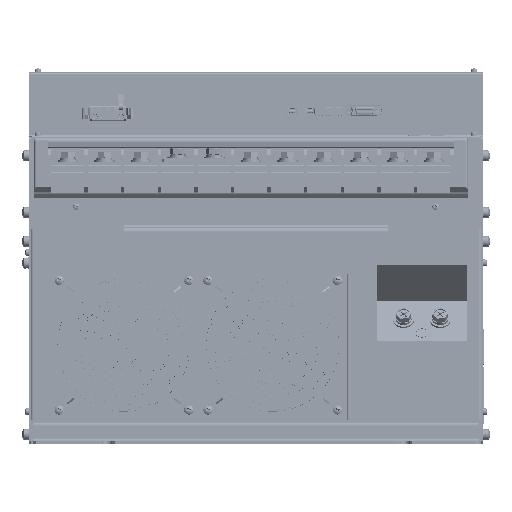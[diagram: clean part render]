
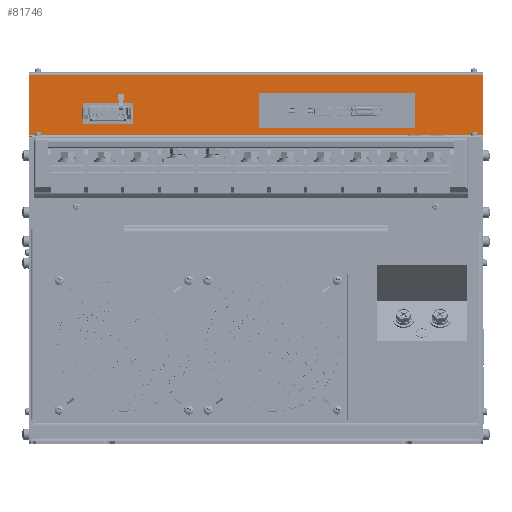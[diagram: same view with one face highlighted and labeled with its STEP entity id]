
A CAD part, front view. The second image highlights one B-rep face of the part: STEP entity #81746.
In plain terms, the highlighted planar face has unit normal (0, -1, 0).
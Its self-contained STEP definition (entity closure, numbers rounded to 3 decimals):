
#1219 = FACE_OUTER_BOUND ( 'NONE', #245632, .T. ) ;
#5301 = VERTEX_POINT ( 'NONE', #140560 ) ;
#27350 = DIRECTION ( 'NONE',  ( 1., 0., 0. ) ) ;
#31324 = VERTEX_POINT ( 'NONE', #154319 ) ;
#38312 = CARTESIAN_POINT ( 'NONE',  ( 0., 74.5, 249. ) ) ;
#42584 = PLANE ( 'NONE',  #120641 ) ;
#48058 = FACE_BOUND ( 'NONE', #251275, .T. ) ;
#52628 = ORIENTED_EDGE ( 'NONE', *, *, #636661, .F. ) ;
#53711 = CARTESIAN_POINT ( 'NONE',  ( -198.6, 74.5, 250. ) ) ;
#64101 = CARTESIAN_POINT ( 'NONE',  ( -107.6, 74.5, 277.6 ) ) ;
#78009 = CARTESIAN_POINT ( 'NONE',  ( -198.6, 74.5, 302.4 ) ) ;
#78242 = LINE ( 'NONE', #435046, #522539 ) ;
#81672 = LINE ( 'NONE', #322917, #409210 ) ;
#81746 = ADVANCED_FACE ( 'NONE', ( #1219, #624701, #48058 ), #42584, .T. ) ;
#84818 = CARTESIAN_POINT ( 'NONE',  ( 139.3, 74.5, 286.2 ) ) ;
#89818 = LINE ( 'NONE', #78009, #152397 ) ;
#94002 = CARTESIAN_POINT ( 'NONE',  ( 198.6, 74.5, 302.4 ) ) ;
#95848 = DIRECTION ( 'NONE',  ( -1., 0., 0. ) ) ;
#95965 = DIRECTION ( 'NONE',  ( 0., 0., -1. ) ) ;
#99724 = VERTEX_POINT ( 'NONE', #94002 ) ;
#120641 = AXIS2_PLACEMENT_3D ( 'NONE', #38312, #136397, #436941 ) ;
#121288 = ORIENTED_EDGE ( 'NONE', *, *, #306241, .F. ) ;
#136397 = DIRECTION ( 'NONE',  ( 0., -1., 0. ) ) ;
#140560 = CARTESIAN_POINT ( 'NONE',  ( 198.6, 74.5, 250. ) ) ;
#145412 = LINE ( 'NONE', #84818, #596570 ) ;
#152397 = VECTOR ( 'NONE', #180404, 1000. ) ;
#153839 = EDGE_CURVE ( 'NONE', #631195, #31324, #203323, .T. ) ;
#154319 = CARTESIAN_POINT ( 'NONE',  ( -151.6, 74.5, 259.6 ) ) ;
#155638 = EDGE_LOOP ( 'NONE', ( #453546, #402469, #516860, #201372 ) ) ;
#162839 = VECTOR ( 'NONE', #95965, 1000. ) ;
#167743 = EDGE_CURVE ( 'NONE', #293430, #367866, #566866, .T. ) ;
#168272 = CARTESIAN_POINT ( 'NONE',  ( 2.3, 74.5, 256.2 ) ) ;
#175678 = VERTEX_POINT ( 'NONE', #64101 ) ;
#180404 = DIRECTION ( 'NONE',  ( 0., 0., 1. ) ) ;
#192090 = EDGE_CURVE ( 'NONE', #413145, #554875, #145412, .T. ) ;
#201372 = ORIENTED_EDGE ( 'NONE', *, *, #374118, .F. ) ;
#203323 = LINE ( 'NONE', #395260, #483897 ) ;
#210591 = LINE ( 'NONE', #436840, #327441 ) ;
#223675 = CARTESIAN_POINT ( 'NONE',  ( 2.3, 74.5, 286.2 ) ) ;
#226519 = CARTESIAN_POINT ( 'NONE',  ( -198.6, 74.5, 302.4 ) ) ;
#232942 = DIRECTION ( 'NONE',  ( -1., 0., 0. ) ) ;
#236797 = DIRECTION ( 'NONE',  ( 0., 0., -1. ) ) ;
#243197 = ORIENTED_EDGE ( 'NONE', *, *, #441227, .F. ) ;
#243280 = CARTESIAN_POINT ( 'NONE',  ( 2.3, 74.5, 286.2 ) ) ;
#245632 = EDGE_LOOP ( 'NONE', ( #121288, #479604, #243197, #509561 ) ) ;
#251275 = EDGE_LOOP ( 'NONE', ( #460557, #52628, #595580, #625186 ) ) ;
#257721 = EDGE_CURVE ( 'NONE', #478371, #99724, #81672, .T. ) ;
#273460 = VECTOR ( 'NONE', #27350, 1000. ) ;
#279877 = EDGE_CURVE ( 'NONE', #551245, #175678, #78242, .T. ) ;
#289411 = EDGE_CURVE ( 'NONE', #175678, #631195, #401914, .T. ) ;
#293430 = VERTEX_POINT ( 'NONE', #501416 ) ;
#306241 = EDGE_CURVE ( 'NONE', #375716, #478371, #89818, .T. ) ;
#315047 = CARTESIAN_POINT ( 'NONE',  ( -107.6, 74.5, 259.6 ) ) ;
#319027 = LINE ( 'NONE', #442299, #162839 ) ;
#322917 = CARTESIAN_POINT ( 'NONE',  ( 198.6, 74.5, 302.4 ) ) ;
#325654 = CARTESIAN_POINT ( 'NONE',  ( -151.6, 74.5, 259.6 ) ) ;
#327441 = VECTOR ( 'NONE', #486886, 1000. ) ;
#343034 = DIRECTION ( 'NONE',  ( 0., 0., -1. ) ) ;
#347845 = VECTOR ( 'NONE', #371803, 1000. ) ;
#361343 = EDGE_CURVE ( 'NONE', #5301, #375716, #429097, .T. ) ;
#367866 = VERTEX_POINT ( 'NONE', #168272 ) ;
#371803 = DIRECTION ( 'NONE',  ( -1., 0., 0. ) ) ;
#374118 = EDGE_CURVE ( 'NONE', #31324, #551245, #390359, .T. ) ;
#375716 = VERTEX_POINT ( 'NONE', #53711 ) ;
#383251 = CARTESIAN_POINT ( 'NONE',  ( -151.6, 74.5, 277.6 ) ) ;
#386193 = VECTOR ( 'NONE', #232942, 1000. ) ;
#390359 = LINE ( 'NONE', #325654, #273460 ) ;
#395260 = CARTESIAN_POINT ( 'NONE',  ( -151.6, 74.5, 277.6 ) ) ;
#401914 = LINE ( 'NONE', #383251, #386193 ) ;
#402469 = ORIENTED_EDGE ( 'NONE', *, *, #289411, .F. ) ;
#403243 = VECTOR ( 'NONE', #236797, 1000. ) ;
#409210 = VECTOR ( 'NONE', #423203, 1000. ) ;
#413145 = VERTEX_POINT ( 'NONE', #438685 ) ;
#423203 = DIRECTION ( 'NONE',  ( 1., 0., 0. ) ) ;
#429097 = LINE ( 'NONE', #596596, #576957 ) ;
#433441 = DIRECTION ( 'NONE',  ( 0., 0., 1. ) ) ;
#435046 = CARTESIAN_POINT ( 'NONE',  ( -107.6, 74.5, 277.6 ) ) ;
#436840 = CARTESIAN_POINT ( 'NONE',  ( 2.3, 74.5, 256.2 ) ) ;
#436941 = DIRECTION ( 'NONE',  ( -1., 0., 0. ) ) ;
#438685 = CARTESIAN_POINT ( 'NONE',  ( 139.3, 74.5, 256.2 ) ) ;
#441227 = EDGE_CURVE ( 'NONE', #99724, #5301, #319027, .T. ) ;
#442299 = CARTESIAN_POINT ( 'NONE',  ( 198.6, 74.5, 249. ) ) ;
#453546 = ORIENTED_EDGE ( 'NONE', *, *, #153839, .F. ) ;
#460557 = ORIENTED_EDGE ( 'NONE', *, *, #167743, .F. ) ;
#478371 = VERTEX_POINT ( 'NONE', #226519 ) ;
#479604 = ORIENTED_EDGE ( 'NONE', *, *, #361343, .F. ) ;
#483897 = VECTOR ( 'NONE', #343034, 1000. ) ;
#486886 = DIRECTION ( 'NONE',  ( 1., 0., 0. ) ) ;
#491658 = CARTESIAN_POINT ( 'NONE',  ( -151.6, 74.5, 277.6 ) ) ;
#501416 = CARTESIAN_POINT ( 'NONE',  ( 2.3, 74.5, 286.2 ) ) ;
#509561 = ORIENTED_EDGE ( 'NONE', *, *, #257721, .F. ) ;
#516860 = ORIENTED_EDGE ( 'NONE', *, *, #279877, .F. ) ;
#516946 = EDGE_CURVE ( 'NONE', #367866, #413145, #210591, .T. ) ;
#522539 = VECTOR ( 'NONE', #535120, 1000. ) ;
#535120 = DIRECTION ( 'NONE',  ( 0., 0., 1. ) ) ;
#551245 = VERTEX_POINT ( 'NONE', #315047 ) ;
#554875 = VERTEX_POINT ( 'NONE', #606353 ) ;
#566866 = LINE ( 'NONE', #243280, #403243 ) ;
#576957 = VECTOR ( 'NONE', #95848, 1000. ) ;
#595580 = ORIENTED_EDGE ( 'NONE', *, *, #192090, .F. ) ;
#596570 = VECTOR ( 'NONE', #433441, 1000. ) ;
#596596 = CARTESIAN_POINT ( 'NONE',  ( 198.6, 74.5, 250. ) ) ;
#606353 = CARTESIAN_POINT ( 'NONE',  ( 139.3, 74.5, 286.2 ) ) ;
#624701 = FACE_BOUND ( 'NONE', #155638, .T. ) ;
#625186 = ORIENTED_EDGE ( 'NONE', *, *, #516946, .F. ) ;
#631195 = VERTEX_POINT ( 'NONE', #491658 ) ;
#635818 = LINE ( 'NONE', #223675, #347845 ) ;
#636661 = EDGE_CURVE ( 'NONE', #554875, #293430, #635818, .T. ) ;
